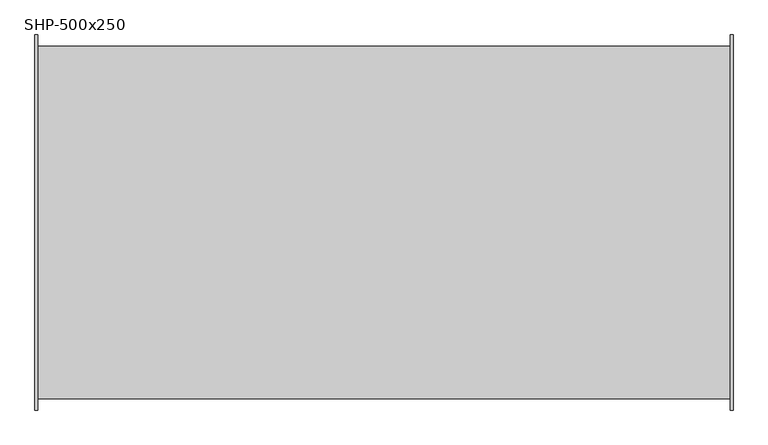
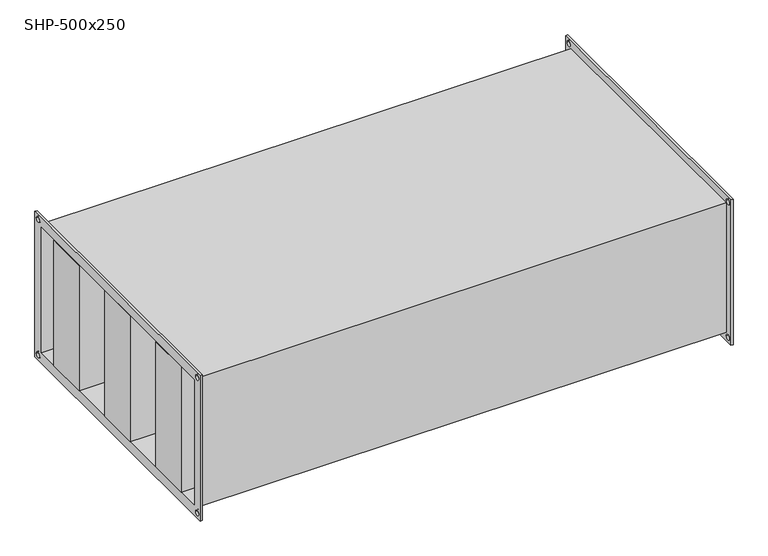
"""IFC4 building model written with IfcOpenShell, lengths in millimetres: damper geometry, СВ_Шумоглушитель_КанальныйПрямоугольный_200-1000_SHP : SHP-500x250."""

from ifc_helpers import new_model, si_unit, frame, origin, place, context, project, spatial, polyline, circle_curve, outline, extrude, source, transform, mapped, element, save
from ifc_brep_helpers import plane_surface, revolved_surface, advanced_brep


def shp_500x250_99d944e7(model_context):
    return source(origin(), model_context, "Body", "SolidModel", [
        extrude(outline(polyline([(502.5, 208.3333333), (502.5, 125.0), (-502.5, 125.0), (-502.5, 208.3333333), (502.5, 208.3333333)])), frame((0.0, 0.0, -125.0), z_axis=(0.0, 0.0, 1.0), x_axis=(1.0, 0.0, 0.0)), (0.0, 0.0, 1.0), 250.0),
        extrude(outline(polyline([(502.5, 41.6666667), (502.5, -41.6666667), (-502.5, -41.6666667), (-502.5, 41.6666667), (502.5, 41.6666667)])), frame((0.0, 0.0, -125.0), z_axis=(0.0, 0.0, 1.0), x_axis=(1.0, 0.0, 0.0)), (0.0, 0.0, 1.0), 250.0),
        extrude(outline(polyline([(502.5, -125.0), (502.5, -208.3333333), (-502.5, -208.3333333), (-502.5, -125.0), (502.5, -125.0)])), frame((0.0, 0.0, -125.0), z_axis=(0.0, 0.0, 1.0), x_axis=(1.0, 0.0, 0.0)), (0.0, 0.0, 1.0), 250.0),
        advanced_brep(
        [(498.5, -254.0, 129.0), (-498.5, -254.0, 129.0), (-498.5, -254.0, -129.0), (498.5, -254.0, -129.0), (-498.5, 254.0, -129.0), (498.5, 254.0, -129.0), (-498.5, 254.0, 129.0), (498.5, 254.0, 129.0), (-502.5, -270.0, 145.0), (-502.5, 270.0, 145.0), (-502.5, 270.0, -145.0), (-502.5, -270.0, -145.0), (-502.5, -250.0, 125.0), (-502.5, -250.0, -125.0), (-502.5, 250.0, -125.0), (-502.5, 250.0, 125.0), (-502.5, 255.0, 135.0), (-502.5, 265.0, 135.0), (-502.5, -265.0, 135.0), (-502.5, -255.0, 135.0), (-502.5, -265.0, -135.0), (-502.5, -255.0, -135.0), (-502.5, 255.0, -135.0), (-502.5, 265.0, -135.0), (-498.5, -270.0, 145.0), (-498.5, -270.0, -145.0), (-498.5, 270.0, -145.0), (-498.5, 270.0, 145.0), (-498.5, 265.0, 135.0), (-498.5, 255.0, 135.0), (-498.5, -255.0, 135.0), (-498.5, -265.0, 135.0), (-498.5, -255.0, -135.0), (-498.5, -265.0, -135.0), (-498.5, 265.0, -135.0), (-498.5, 255.0, -135.0), (498.5, 270.0, 145.0), (498.5, 270.0, -145.0), (498.5, -270.0, -145.0), (498.5, -270.0, 145.0), (498.5, 255.0, 135.0), (498.5, 265.0, 135.0), (498.5, -265.0, 135.0), (498.5, -255.0, 135.0), (498.5, -265.0, -135.0), (498.5, -255.0, -135.0), (498.5, 255.0, -135.0), (498.5, 265.0, -135.0), (502.5, 270.0, 145.0), (502.5, -270.0, 145.0), (502.5, -270.0, -145.0), (502.5, 270.0, -145.0), (502.5, 250.0, 125.0), (502.5, 250.0, -125.0), (502.5, -250.0, -125.0), (502.5, -250.0, 125.0), (502.5, 265.0, 135.0), (502.5, 255.0, 135.0), (502.5, -255.0, 135.0), (502.5, -265.0, 135.0), (502.5, -255.0, -135.0), (502.5, -265.0, -135.0), (502.5, 265.0, -135.0), (502.5, 255.0, -135.0)],
        [
            (0, 1),
            (1, 2),
            (2, 3),
            (3, 0),
            (2, 4),
            (4, 5),
            (5, 3),
            (4, 6),
            (6, 7),
            (7, 5),
            (0, 7),
            (6, 1),
            (8, 9),
            (9, 10),
            (10, 11),
            (11, 8),
            (12, 13),
            (13, 14),
            (14, 15),
            (15, 12),
            (16, 17, circle_curve(frame((-502.5, 260.0, 135.0), z_axis=(1.0, 0.0, 0.0), x_axis=(0.0, 1.0, 0.0)), 5.0)),
            (17, 16, circle_curve(frame((-502.5, 260.0, 135.0), z_axis=(1.0, 0.0, 0.0), x_axis=(0.0, 1.0, 0.0)), 5.0)),
            (18, 19, circle_curve(frame((-502.5, -260.0, 135.0), z_axis=(1.0, 0.0, 0.0), x_axis=(0.0, 1.0, 0.0)), 5.0)),
            (19, 18, circle_curve(frame((-502.5, -260.0, 135.0), z_axis=(1.0, 0.0, 0.0), x_axis=(0.0, 1.0, 0.0)), 5.0)),
            (20, 21, circle_curve(frame((-502.5, -260.0, -135.0), z_axis=(1.0, 0.0, 0.0), x_axis=(0.0, 1.0, 0.0)), 5.0)),
            (21, 20, circle_curve(frame((-502.5, -260.0, -135.0), z_axis=(1.0, 0.0, 0.0), x_axis=(0.0, 1.0, 0.0)), 5.0)),
            (22, 23, circle_curve(frame((-502.5, 260.0, -135.0), z_axis=(1.0, 0.0, 0.0), x_axis=(0.0, 1.0, 0.0)), 5.0)),
            (23, 22, circle_curve(frame((-502.5, 260.0, -135.0), z_axis=(1.0, 0.0, 0.0), x_axis=(0.0, 1.0, 0.0)), 5.0)),
            (24, 25),
            (25, 26),
            (26, 27),
            (27, 24),
            (28, 29, circle_curve(frame((-498.5, 260.0, 135.0), z_axis=(-1.0, 0.0, 0.0), x_axis=(0.0, 1.0, 0.0)), 5.0)),
            (29, 28, circle_curve(frame((-498.5, 260.0, 135.0), z_axis=(-1.0, 0.0, 0.0), x_axis=(0.0, 1.0, 0.0)), 5.0)),
            (30, 31, circle_curve(frame((-498.5, -260.0, 135.0), z_axis=(-1.0, 0.0, 0.0), x_axis=(0.0, 1.0, 0.0)), 5.0)),
            (31, 30, circle_curve(frame((-498.5, -260.0, 135.0), z_axis=(-1.0, 0.0, 0.0), x_axis=(0.0, 1.0, 0.0)), 5.0)),
            (32, 33, circle_curve(frame((-498.5, -260.0, -135.0), z_axis=(-1.0, 0.0, 0.0), x_axis=(0.0, 1.0, 0.0)), 5.0)),
            (33, 32, circle_curve(frame((-498.5, -260.0, -135.0), z_axis=(-1.0, 0.0, 0.0), x_axis=(0.0, 1.0, 0.0)), 5.0)),
            (34, 35, circle_curve(frame((-498.5, 260.0, -135.0), z_axis=(-1.0, 0.0, 0.0), x_axis=(0.0, 1.0, 0.0)), 5.0)),
            (35, 34, circle_curve(frame((-498.5, 260.0, -135.0), z_axis=(-1.0, 0.0, 0.0), x_axis=(0.0, 1.0, 0.0)), 5.0)),
            (11, 25),
            (24, 8),
            (10, 26),
            (9, 27),
            (36, 37),
            (37, 38),
            (38, 39),
            (39, 36),
            (40, 41, circle_curve(frame((498.5, 260.0, 135.0), z_axis=(1.0, 0.0, 0.0), x_axis=(0.0, 1.0, 0.0)), 5.0)),
            (41, 40, circle_curve(frame((498.5, 260.0, 135.0), z_axis=(1.0, 0.0, 0.0), x_axis=(0.0, 1.0, 0.0)), 5.0)),
            (42, 43, circle_curve(frame((498.5, -260.0, 135.0), z_axis=(1.0, 0.0, 0.0), x_axis=(0.0, 1.0, 0.0)), 5.0)),
            (43, 42, circle_curve(frame((498.5, -260.0, 135.0), z_axis=(1.0, 0.0, 0.0), x_axis=(0.0, 1.0, 0.0)), 5.0)),
            (44, 45, circle_curve(frame((498.5, -260.0, -135.0), z_axis=(1.0, 0.0, 0.0), x_axis=(0.0, 1.0, 0.0)), 5.0)),
            (45, 44, circle_curve(frame((498.5, -260.0, -135.0), z_axis=(1.0, 0.0, 0.0), x_axis=(0.0, 1.0, 0.0)), 5.0)),
            (46, 47, circle_curve(frame((498.5, 260.0, -135.0), z_axis=(1.0, 0.0, 0.0), x_axis=(0.0, 1.0, 0.0)), 5.0)),
            (47, 46, circle_curve(frame((498.5, 260.0, -135.0), z_axis=(1.0, 0.0, 0.0), x_axis=(0.0, 1.0, 0.0)), 5.0)),
            (48, 49),
            (49, 50),
            (50, 51),
            (51, 48),
            (52, 53),
            (53, 54),
            (54, 55),
            (55, 52),
            (56, 57, circle_curve(frame((502.5, 260.0, 135.0), z_axis=(-1.0, 0.0, 0.0), x_axis=(0.0, 1.0, 0.0)), 5.0)),
            (57, 56, circle_curve(frame((502.5, 260.0, 135.0), z_axis=(-1.0, 0.0, 0.0), x_axis=(0.0, 1.0, 0.0)), 5.0)),
            (58, 59, circle_curve(frame((502.5, -260.0, 135.0), z_axis=(-1.0, 0.0, 0.0), x_axis=(0.0, 1.0, 0.0)), 5.0)),
            (59, 58, circle_curve(frame((502.5, -260.0, 135.0), z_axis=(-1.0, 0.0, 0.0), x_axis=(0.0, 1.0, 0.0)), 5.0)),
            (60, 61, circle_curve(frame((502.5, -260.0, -135.0), z_axis=(-1.0, 0.0, 0.0), x_axis=(0.0, 1.0, 0.0)), 5.0)),
            (61, 60, circle_curve(frame((502.5, -260.0, -135.0), z_axis=(-1.0, 0.0, 0.0), x_axis=(0.0, 1.0, 0.0)), 5.0)),
            (62, 63, circle_curve(frame((502.5, 260.0, -135.0), z_axis=(-1.0, 0.0, 0.0), x_axis=(0.0, 1.0, 0.0)), 5.0)),
            (63, 62, circle_curve(frame((502.5, 260.0, -135.0), z_axis=(-1.0, 0.0, 0.0), x_axis=(0.0, 1.0, 0.0)), 5.0)),
            (39, 49),
            (48, 36),
            (38, 50),
            (37, 51),
            (15, 52),
            (55, 12),
            (14, 53),
            (13, 54),
            (16, 29),
            (28, 17),
            (40, 57),
            (56, 41),
            (18, 31),
            (30, 19),
            (42, 59),
            (58, 43),
            (20, 33),
            (32, 21),
            (44, 61),
            (60, 45),
            (22, 35),
            (34, 23),
            (46, 63),
            (62, 47),
        ],
        [
            plane_surface(frame((498.5, -254.0, 129.0), z_axis=(0.0, -1.0, 0.0), x_axis=(-1.0, 0.0, 0.0))),
            plane_surface(frame((498.5, -254.0, -129.0), z_axis=(0.0, 0.0, -1.0), x_axis=(-1.0, 0.0, 0.0))),
            plane_surface(frame((498.5, 254.0, -129.0), z_axis=(0.0, 1.0, 0.0), x_axis=(-1.0, 0.0, 0.0))),
            plane_surface(frame((498.5, 254.0, 129.0), z_axis=(0.0, 0.0, 1.0), x_axis=(-1.0, 0.0, 0.0))),
            plane_surface(frame((-502.5, -270.0, 145.0), z_axis=(-1.0, 0.0, 0.0), x_axis=(0.0, 0.0, 1.0))),
            plane_surface(frame((-498.5, -270.0, 145.0), z_axis=(1.0, 0.0, 0.0), x_axis=(0.0, 0.0, -1.0))),
            plane_surface(frame((-498.5, -270.0, 145.0), z_axis=(0.0, -1.0, 0.0), x_axis=(-1.0, 0.0, 0.0))),
            plane_surface(frame((-498.5, -270.0, -145.0), z_axis=(0.0, 0.0, -1.0), x_axis=(-1.0, 0.0, 0.0))),
            plane_surface(frame((-498.5, 270.0, -145.0), z_axis=(0.0, 1.0, 0.0), x_axis=(-1.0, 0.0, 0.0))),
            plane_surface(frame((-498.5, 270.0, 145.0), z_axis=(0.0, 0.0, 1.0), x_axis=(-1.0, 0.0, 0.0))),
            plane_surface(frame((498.5, 250.0, -125.0), z_axis=(-1.0, 0.0, 0.0), x_axis=(0.0, 0.0, 1.0))),
            plane_surface(frame((502.5, 250.0, -125.0), z_axis=(1.0, 0.0, 0.0), x_axis=(0.0, 0.0, -1.0))),
            plane_surface(frame((502.5, 270.0, 145.0), z_axis=(0.0, 0.0, 1.0), x_axis=(-1.0, 0.0, 0.0))),
            plane_surface(frame((502.5, -270.0, 145.0), z_axis=(0.0, -1.0, 0.0), x_axis=(-1.0, 0.0, 0.0))),
            plane_surface(frame((502.5, -270.0, -145.0), z_axis=(0.0, 0.0, -1.0), x_axis=(-1.0, 0.0, 0.0))),
            plane_surface(frame((502.5, 270.0, -145.0), z_axis=(0.0, 1.0, 0.0), x_axis=(-1.0, 0.0, 0.0))),
            plane_surface(frame((-498.5, -250.0, 125.0), z_axis=(0.0, 0.0, -1.0), x_axis=(-1.0, 0.0, 0.0))),
            plane_surface(frame((-498.5, 250.0, 125.0), z_axis=(0.0, -1.0, 0.0), x_axis=(-1.0, 0.0, 0.0))),
            plane_surface(frame((-498.5, 250.0, -125.0), z_axis=(0.0, 0.0, 1.0), x_axis=(-1.0, 0.0, 0.0))),
            plane_surface(frame((-498.5, -250.0, -125.0), z_axis=(0.0, 1.0, 0.0), x_axis=(-1.0, 0.0, 0.0))),
            revolved_surface(polyline([(-498.5, 265.0, 135.0), (-502.5, 265.0, 135.0)]), (-502.5, 260.0, 135.0), (1.0, 0.0, 0.0)),
            revolved_surface(polyline([(502.5, 265.0, 135.0), (498.5, 265.0, 135.0)]), (-502.5, 260.0, 135.0), (1.0, 0.0, 0.0)),
            revolved_surface(polyline([(-498.5, -255.0, 135.0), (-502.5, -255.0, 135.0)]), (0.0, -260.0, 135.0), (1.0, 0.0, 0.0)),
            revolved_surface(polyline([(502.5, -255.0, 135.0), (498.5, -255.0, 135.0)]), (0.0, -260.0, 135.0), (1.0, 0.0, 0.0)),
            revolved_surface(polyline([(-498.5, -255.0, -135.0), (-502.5, -255.0, -135.0)]), (0.0, -260.0, -135.0), (1.0, 0.0, 0.0)),
            revolved_surface(polyline([(502.5, -255.0, -135.0), (498.5, -255.0, -135.0)]), (0.0, -260.0, -135.0), (1.0, 0.0, 0.0)),
            revolved_surface(polyline([(-498.5, 265.0, -135.0), (-502.5, 265.0, -135.0)]), (0.0, 260.0, -135.0), (1.0, 0.0, 0.0)),
            revolved_surface(polyline([(502.5, 265.0, -135.0), (498.5, 265.0, -135.0)]), (0.0, 260.0, -135.0), (1.0, 0.0, 0.0)),
        ],
        [
            (0, [[1, 2, 3, 4]]),
            (1, [[-3, 5, 6, 7]]),
            (2, [[-6, 8, 9, 10]]),
            (3, [[-1, 11, -9, 12]]),
            (4, [[13, 14, 15, 16], [17, 18, 19, 20], [21, 22], [23, 24], [25, 26], [27, 28]]),
            (5, [[29, 30, 31, 32], [-2, -12, -8, -5], [33, 34], [35, 36], [37, 38], [39, 40]]),
            (6, [[-16, 41, -29, 42]]),
            (7, [[-15, 43, -30, -41]]),
            (8, [[-14, 44, -31, -43]]),
            (9, [[-13, -42, -32, -44]]),
            (10, [[45, 46, 47, 48], [-4, -7, -10, -11], [49, 50], [51, 52], [53, 54], [55, 56]]),
            (11, [[57, 58, 59, 60], [61, 62, 63, 64], [65, 66], [67, 68], [69, 70], [71, 72]]),
            (12, [[-48, 73, -57, 74]]),
            (13, [[-47, 75, -58, -73]]),
            (14, [[-46, 76, -59, -75]]),
            (15, [[-45, -74, -60, -76]]),
            (16, [[-20, 77, -64, 78]]),
            (17, [[-77, -19, 79, -61]]),
            (18, [[-79, -18, 80, -62]]),
            (19, [[-80, -17, -78, -63]]),
            (20, [[81, -33, 82, -21]]),
            (21, [[83, -65, 84, -49]]),
            (20, [[-81, -22, -82, -34]]),
            (21, [[-83, -50, -84, -66]]),
            (22, [[85, -35, 86, -23]]),
            (23, [[87, -67, 88, -51]]),
            (22, [[-85, -24, -86, -36]]),
            (23, [[-87, -52, -88, -68]]),
            (24, [[89, -37, 90, -25]]),
            (25, [[91, -69, 92, -53]]),
            (24, [[-89, -26, -90, -38]]),
            (25, [[-91, -54, -92, -70]]),
            (26, [[93, -39, 94, -27]]),
            (27, [[95, -71, 96, -55]]),
            (26, [[-93, -28, -94, -40]]),
            (27, [[-95, -56, -96, -72]]),
        ],
    ),
    ])


if __name__ == "__main__":
    model = new_model("IFC4")
    model_context = context("Model", 3, world=origin())
    ifc_project = project(units=[si_unit("LENGTHUNIT", "METRE", prefix="MILLI")], contexts=[model_context])
    site = spatial("IfcSite", under=ifc_project)
    building = spatial("IfcBuilding", under=site)
    placement = place(None, origin())
    shp_500x250_shape = shp_500x250_99d944e7(model_context)
    element("IfcDamper", 1, ObjectType="СВ_Шумоглушитель_КанальныйПрямоугольный_200-1000_SHP : SHP-500x250", at=placement, inside=building, context=model_context, shape_type="MappedRepresentation", body=[
        mapped(shp_500x250_shape, transform((0.0, 0.0, 0.0), x_axis=(1.0, 0.0, 0.0), y_axis=(0.0, 1.0, 0.0), z_axis=(0.0, 0.0, 1.0))),
    ])
    save(model, "model.ifc")
